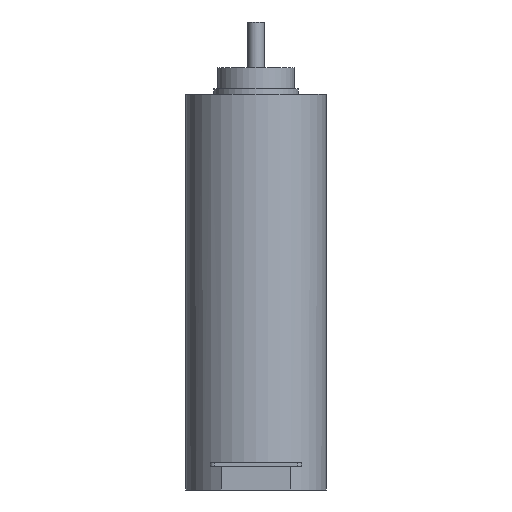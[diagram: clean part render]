
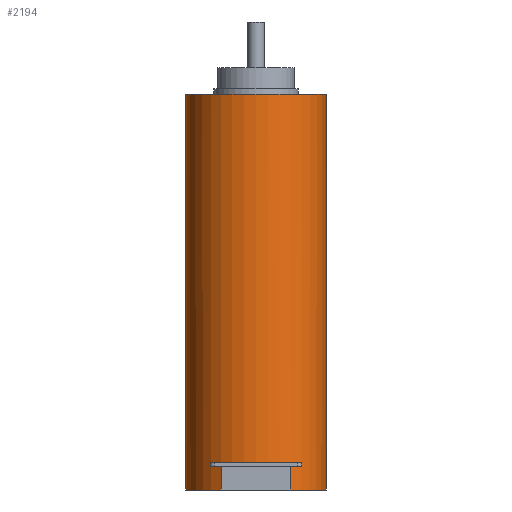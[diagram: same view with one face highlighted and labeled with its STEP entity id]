
A CAD part, front view. The second image highlights one B-rep face of the part: STEP entity #2194.
In plain terms, the highlighted cylindrical face has radius 5 mm (diameter 10 mm), a full revolution.
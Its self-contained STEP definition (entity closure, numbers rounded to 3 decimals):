
#2109=CARTESIAN_POINT('',(-2.465,-4.35,-26.2));
#2110=VERTEX_POINT('',#2109);
#2111=CARTESIAN_POINT('',(2.465,-4.35,-26.2));
#2112=VERTEX_POINT('',#2111);
#2119=CARTESIAN_POINT('',(-2.465,-4.35,-28.1));
#2120=VERTEX_POINT('',#2119);
#2121=CARTESIAN_POINT('',(-2.465,-4.35,-28.1));
#2122=DIRECTION('',(0.0,0.0,1.0));
#2123=VECTOR('',#2122,1.9);
#2124=LINE('',#2121,#2123);
#2125=EDGE_CURVE('',#2120,#2110,#2124,.T.);
#2127=CARTESIAN_POINT('',(2.465,-4.35,-28.1));
#2128=VERTEX_POINT('',#2127);
#2135=CARTESIAN_POINT('',(2.465,-4.35,-26.2));
#2136=DIRECTION('',(0.0,0.0,-1.0));
#2137=VECTOR('',#2136,1.9);
#2138=LINE('',#2135,#2137);
#2139=EDGE_CURVE('',#2112,#2128,#2138,.T.);
#2156=CARTESIAN_POINT('',(0.0,0.0,-26.2));
#2157=DIRECTION('',(0.0,0.0,1.0));
#2158=DIRECTION('',(0.0,-1.0,0.0));
#2159=AXIS2_PLACEMENT_3D('',#2156,#2157,#2158);
#2160=CIRCLE('',#2159,5.);
#2161=EDGE_CURVE('',#2110,#2112,#2160,.T.);
#2166=CARTESIAN_POINT('',(0.0,0.0,-14.05));
#2167=DIRECTION('',(0.0,0.0,1.0));
#2168=DIRECTION('',(0.0,-1.0,0.0));
#2169=AXIS2_PLACEMENT_3D('',#2166,#2167,#2168);
#2170=CYLINDRICAL_SURFACE('',#2169,5.);
#2171=ORIENTED_EDGE('',*,*,#2125,.T.);
#2172=ORIENTED_EDGE('',*,*,#2161,.T.);
#2173=ORIENTED_EDGE('',*,*,#2139,.T.);
#2174=CARTESIAN_POINT('',(0.0,0.0,-28.1));
#2175=DIRECTION('',(0.0,0.0,1.0));
#2176=DIRECTION('',(0.0,-1.0,0.0));
#2177=AXIS2_PLACEMENT_3D('',#2174,#2175,#2176);
#2178=CIRCLE('',#2177,5.);
#2179=EDGE_CURVE('',#2128,#2120,#2178,.T.);
#2180=ORIENTED_EDGE('',*,*,#2179,.T.);
#2181=EDGE_LOOP('',(#2171,#2172,#2173,#2180));
#2182=FACE_OUTER_BOUND('',#2181,.T.);
#2183=CARTESIAN_POINT('',(0.0,-5.,0.0));
#2184=VERTEX_POINT('',#2183);
#2185=CARTESIAN_POINT('',(0.0,0.0,0.0));
#2186=DIRECTION('',(0.0,0.0,1.0));
#2187=DIRECTION('',(0.0,-1.0,0.0));
#2188=AXIS2_PLACEMENT_3D('',#2185,#2186,#2187);
#2189=CIRCLE('',#2188,5.);
#2190=EDGE_CURVE('',#2184,#2184,#2189,.T.);
#2191=ORIENTED_EDGE('',*,*,#2190,.F.);
#2192=EDGE_LOOP('',(#2191));
#2193=FACE_BOUND('',#2192,.T.);
#2194=ADVANCED_FACE('',(#2182,#2193),#2170,.T.);
